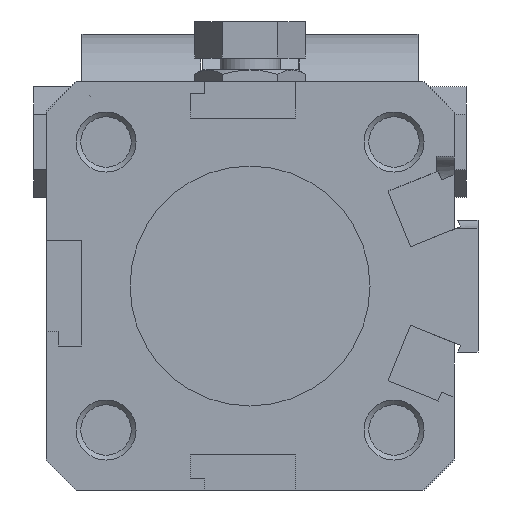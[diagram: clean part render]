
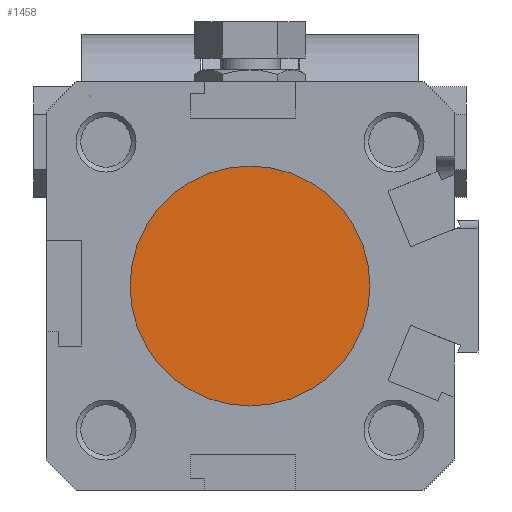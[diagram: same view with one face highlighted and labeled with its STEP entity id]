
A CAD part, front view. The second image highlights one B-rep face of the part: STEP entity #1458.
In plain terms, the highlighted planar face has unit normal (0, -1, 0).
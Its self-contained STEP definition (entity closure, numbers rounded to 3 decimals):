
#328=FACE_OUTER_BOUND('',#3887,.T.);
#1458=ADVANCED_FACE('',(#328),#2642,.T.);
#2642=PLANE('',#23917);
#3887=EDGE_LOOP('',(#5509));
#5157=CIRCLE('',#23912,10.);
#5509=ORIENTED_EDGE('',*,*,#14461,.F.);
#12179=VERTEX_POINT('',#31446);
#14461=EDGE_CURVE('',#12179,#12179,#5157,.T.);
#23912=AXIS2_PLACEMENT_3D('',#31445,#25488,#25489);
#23917=AXIS2_PLACEMENT_3D('',#31565,#25498,#25499);
#25488=DIRECTION('',(0.,1.,0.));
#25489=DIRECTION('',(-1.,0.,0.));
#25498=DIRECTION('',(0.,-1.,0.));
#25499=DIRECTION('',(-1.,0.,0.));
#31445=CARTESIAN_POINT('',(0.,-52.3,0.));
#31446=CARTESIAN_POINT('',(-10.,-52.3,0.));
#31565=CARTESIAN_POINT('',(0.,-52.3,0.));
